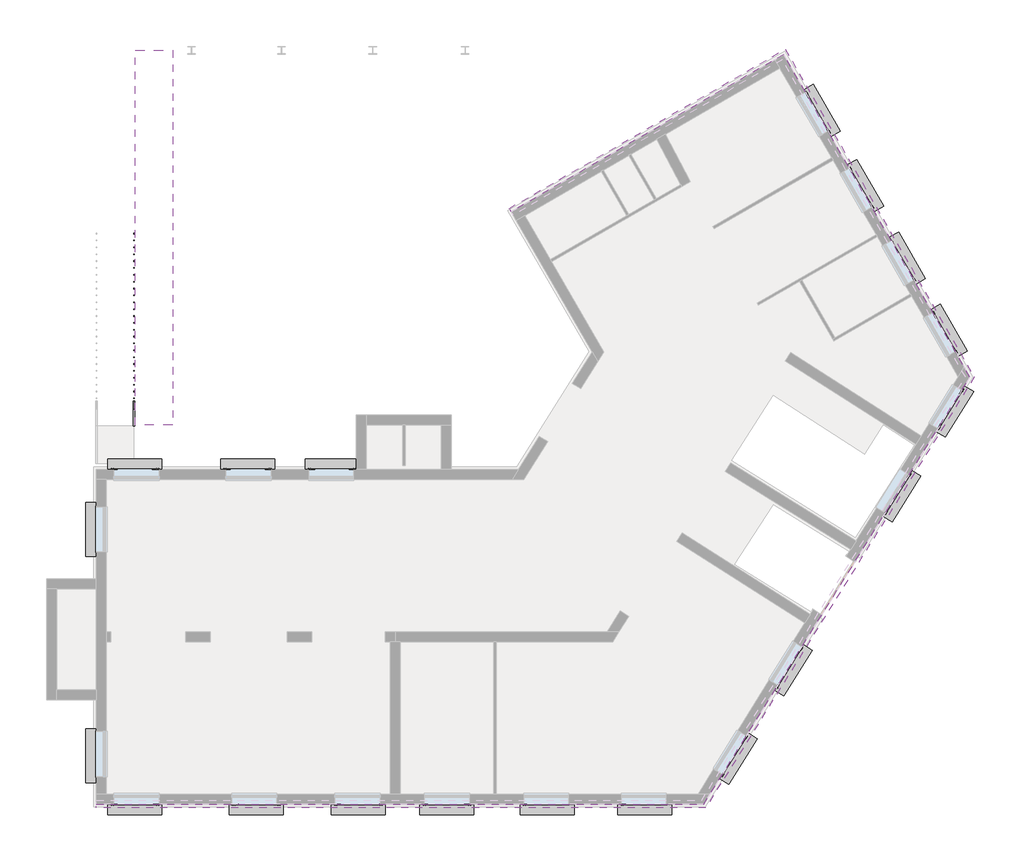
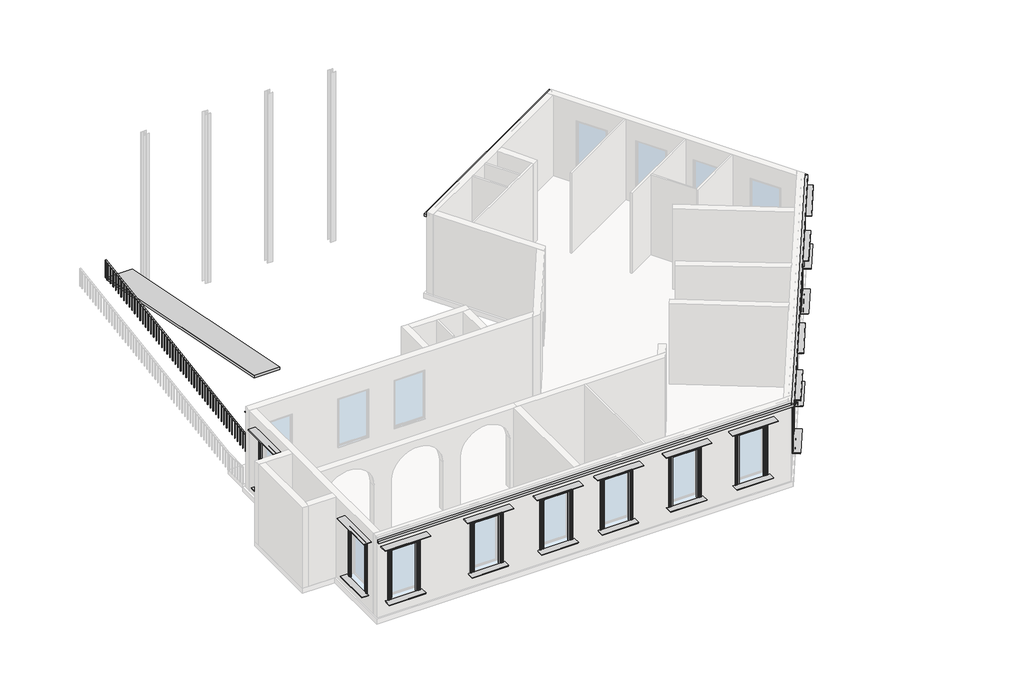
# One storey, part 3 of 3: 20 proxies, 1 railing, 1 ramp.
"""IFC4 building model written with IfcOpenShell, lengths in millimetres."""

from ifc_helpers import new_model, si_unit, frame, origin, place, context, project, spatial, polyline, outline, extrude, transform, mapped, element, save
from components import type_1_216547c5, standard_3_bc49fa27

model = new_model("IFC4")

# Units and contexts
model_context = context("Model", 3, world=origin())
ifc_project = project(units=[si_unit("LENGTHUNIT", "METRE", prefix="MILLI")], contexts=[model_context])

# Site, building, storey
site = spatial("IfcSite", under=ifc_project)
building = spatial("IfcBuilding", under=site)
storey = spatial("IfcBuildingStorey", under=building, Name="PLINT LEVEL +1.00", Elevation=1000.0)

# Proxies
placement = place(None, origin())
element("IfcBuildingElementProxy", 1, Name="Cornice", ObjectType="Cornice", at=placement, inside=storey, context=model_context, shape_type="SweptSolid", body=[
    extrude(outline(polyline([(-13331.6874983, -4062.3711746), (-13331.6874983, -3909.9711746), (10979.352603, -3909.9711746), (11063.9651601, -4062.3711746), (-13331.6874983, -4062.3711746)])), frame((0.0, 0.0, 5700.0), z_axis=(0.0, 0.0, 1.0), x_axis=(1.0, 0.0, 0.0)), (0.0, 0.0, 1.0), 152.4),
    extrude(outline(polyline([(21640.5525636, 13203.3879896), (21818.2497468, 13200.4074399), (11063.9651601, -4062.3711746), (10979.352603, -3909.9711746), (21640.5525636, 13203.3879896)])), frame((0.0, 0.0, 5700.0), z_axis=(0.0, 0.0, 1.0), x_axis=(1.0, 0.0, 0.0)), (0.0, 0.0, 1.0), 152.4),
    extrude(outline(polyline([(14180.5592412, 26124.4754481), (14236.3415127, 26332.6577196), (21818.2497468, 13200.4074399), (21640.5525636, 13203.3879896), (14180.5592412, 26124.4754481)])), frame((0.0, 0.0, 5700.0), z_axis=(0.0, 0.0, 1.0), x_axis=(1.0, 0.0, 0.0)), (0.0, 0.0, 1.0), 152.4),
    extrude(outline(polyline([(3268.6391535, 19824.4754481), (3192.4391535, 19956.4577196), (14236.3415127, 26332.6577196), (14180.5592412, 26124.4754481), (3268.6391535, 19824.4754481)])), frame((0.0, 0.0, 5700.0), z_axis=(0.0, 0.0, 1.0), x_axis=(1.0, 0.0, 0.0)), (0.0, 0.0, 1.0), 152.4),
])
type_1_shape = type_1_216547c5(model_context)
element("IfcBuildingElementProxy", 2, Name="Family1.rfa122231 : Type 1", ObjectType="Family1.rfa122231 : Type 1", at=placement, inside=storey, context=model_context, shape_type="MappedRepresentation", body=[
    mapped(type_1_shape, transform((-11667.3092766, -3709.9711746, 1000.0), x_axis=(-1.0, 0.0, 0.0), y_axis=(0.0, -1.0, 0.0), z_axis=(0.0, 0.0, 1.0))),
])
element("IfcBuildingElementProxy", 3, Name="Family1.rfa122231 : Type 1", ObjectType="Family1.rfa122231 : Type 1", at=placement, inside=storey, context=model_context, shape_type="MappedRepresentation", body=[
    mapped(type_1_shape, transform((-6801.9484639, -3709.9711746, 1000.0), x_axis=(-1.0, 0.0, 0.0), y_axis=(0.0, -1.0, 0.0), z_axis=(0.0, 0.0, 1.0))),
])
element("IfcBuildingElementProxy", 4, Name="Family1.rfa122231 : Type 1", ObjectType="Family1.rfa122231 : Type 1", at=placement, inside=storey, context=model_context, shape_type="MappedRepresentation", body=[
    mapped(type_1_shape, transform((-2720.6984639, -3709.9711746, 1000.0), x_axis=(-1.0, 0.0, 0.0), y_axis=(0.0, -1.0, 0.0), z_axis=(0.0, 0.0, 1.0))),
])
element("IfcBuildingElementProxy", 5, Name="Family1.rfa122231 : Type 1", ObjectType="Family1.rfa122231 : Type 1", at=placement, inside=storey, context=model_context, shape_type="MappedRepresentation", body=[
    mapped(type_1_shape, transform((823.990647, -3709.9711746, 1000.0), x_axis=(-1.0, 0.0, 0.0), y_axis=(0.0, -1.0, 0.0), z_axis=(0.0, 0.0, 1.0))),
])
element("IfcBuildingElementProxy", 6, Name="Family1.rfa122231 : Type 1", ObjectType="Family1.rfa122231 : Type 1", at=placement, inside=storey, context=model_context, shape_type="MappedRepresentation", body=[
    mapped(type_1_shape, transform((4834.9297578, -3709.9711746, 1000.0), x_axis=(-1.0, 0.0, 0.0), y_axis=(0.0, -1.0, 0.0), z_axis=(0.0, 0.0, 1.0))),
])
element("IfcBuildingElementProxy", 7, Name="Family1.rfa122231 : Type 1", ObjectType="Family1.rfa122231 : Type 1", at=placement, inside=storey, context=model_context, shape_type="MappedRepresentation", body=[
    mapped(type_1_shape, transform((8744.9297578, -3709.9711746, 1000.0), x_axis=(-1.0, 0.0, 0.0), y_axis=(0.0, -1.0, 0.0), z_axis=(0.0, 0.0, 1.0))),
])
element("IfcBuildingElementProxy", 8, Name="Family1.rfa122231 : Type 1", ObjectType="Family1.rfa122231 : Type 1", at=placement, inside=storey, context=model_context, shape_type="MappedRepresentation", body=[
    mapped(type_1_shape, transform((12080.9568007, -1763.4344335, 1000.0), x_axis=(-0.5287625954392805, -0.8487697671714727, 0.0), y_axis=(0.8487697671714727, -0.5287625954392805, 0.0), z_axis=(0.0, 0.0, 1.0))),
])
element("IfcBuildingElementProxy", 9, Name="Family1.rfa122231 : Type 1", ObjectType="Family1.rfa122231 : Type 1", at=placement, inside=storey, context=model_context, shape_type="MappedRepresentation", body=[
    mapped(type_1_shape, transform((14290.8556765, 1783.8954467, 1000.0), x_axis=(-0.5287625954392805, -0.8487697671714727, 0.0), y_axis=(0.8487697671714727, -0.5287625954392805, 0.0), z_axis=(0.0, 0.0, 1.0))),
])
element("IfcBuildingElementProxy", 10, Name="Family1.rfa122231 : Type 1", ObjectType="Family1.rfa122231 : Type 1", at=placement, inside=storey, context=model_context, shape_type="MappedRepresentation", body=[
    mapped(type_1_shape, transform((20747.0469669, 12147.3743039, 1000.0), x_axis=(-0.5287625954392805, -0.8487697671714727, 0.0), y_axis=(0.8487697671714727, -0.5287625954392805, 0.0), z_axis=(0.0, 0.0, 1.0))),
])
element("IfcBuildingElementProxy", 11, Name="Family1.rfa122231 : Type 1", ObjectType="Family1.rfa122231 : Type 1", at=placement, inside=storey, context=model_context, shape_type="MappedRepresentation", body=[
    mapped(type_1_shape, transform((20386.1041604, 14976.1563593, 1000.0), x_axis=(0.49999999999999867, -0.8660254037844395, 0.0), y_axis=(0.8660254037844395, 0.49999999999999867, 0.0), z_axis=(0.0, 0.0, 1.0))),
])
element("IfcBuildingElementProxy", 12, Name="Family1.rfa122231 : Type 1", ObjectType="Family1.rfa122231 : Type 1", at=placement, inside=storey, context=model_context, shape_type="MappedRepresentation", body=[
    mapped(type_1_shape, transform((18712.3541604, 17875.1763985, 1000.0), x_axis=(0.49999999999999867, -0.8660254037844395, 0.0), y_axis=(0.8660254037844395, 0.49999999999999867, 0.0), z_axis=(0.0, 0.0, 1.0))),
])
element("IfcBuildingElementProxy", 13, Name="Family1.rfa122231 : Type 1", ObjectType="Family1.rfa122231 : Type 1", at=placement, inside=storey, context=model_context, shape_type="MappedRepresentation", body=[
    mapped(type_1_shape, transform((17038.6041604, 20774.1964376, 1000.0), x_axis=(0.49999999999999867, -0.8660254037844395, 0.0), y_axis=(0.8660254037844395, 0.49999999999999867, 0.0), z_axis=(0.0, 0.0, 1.0))),
])
element("IfcBuildingElementProxy", 14, Name="Family1.rfa122231 : Type 1", ObjectType="Family1.rfa122231 : Type 1", at=placement, inside=storey, context=model_context, shape_type="MappedRepresentation", body=[
    mapped(type_1_shape, transform((15301.4150495, 23783.09624, 1000.0), x_axis=(0.49999999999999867, -0.8660254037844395, 0.0), y_axis=(0.8660254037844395, 0.49999999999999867, 0.0), z_axis=(0.0, 0.0, 1.0))),
])
element("IfcBuildingElementProxy", 15, Name="Family1.rfa122231 : Type 1", ObjectType="Family1.rfa122231 : Type 1", at=placement, inside=storey, context=model_context, shape_type="MappedRepresentation", body=[
    mapped(type_1_shape, transform((-13131.6874983, -2094.9711746, 1000.0), x_axis=(0.0, 1.0, 0.0), y_axis=(-1.0, 0.0, 0.0), z_axis=(0.0, 0.0, 1.0))),
])
element("IfcBuildingElementProxy", 16, Name="Family1.rfa122231 : Type 1", ObjectType="Family1.rfa122231 : Type 1", at=placement, inside=storey, context=model_context, shape_type="MappedRepresentation", body=[
    mapped(type_1_shape, transform((-13131.6874983, 6973.1027037, 1000.0), x_axis=(0.0, 1.0, 0.0), y_axis=(-1.0, 0.0, 0.0), z_axis=(0.0, 0.0, 1.0))),
])
element("IfcBuildingElementProxy", 17, Name="Family1.rfa122231 : Type 1", ObjectType="Family1.rfa122231 : Type 1", at=placement, inside=storey, context=model_context, shape_type="MappedRepresentation", body=[
    mapped(type_1_shape, transform((-11916.6874983, 9290.0288254, 1000.0), x_axis=(1.0, 0.0, 0.0), y_axis=(0.0, 1.0, 0.0), z_axis=(0.0, 0.0, 1.0))),
])
element("IfcBuildingElementProxy", 18, Name="Family1.rfa122231 : Type 1", ObjectType="Family1.rfa122231 : Type 1", at=placement, inside=storey, context=model_context, shape_type="MappedRepresentation", body=[
    mapped(type_1_shape, transform((-7406.3266857, 9290.0288254, 1000.0), x_axis=(1.0, 0.0, 0.0), y_axis=(0.0, 1.0, 0.0), z_axis=(0.0, 0.0, 1.0))),
])
element("IfcBuildingElementProxy", 19, Name="Family1.rfa122231 : Type 1", ObjectType="Family1.rfa122231 : Type 1", at=placement, inside=storey, context=model_context, shape_type="MappedRepresentation", body=[
    mapped(type_1_shape, transform((-4026.9484639, 9290.0288254, 1000.0), x_axis=(1.0, 0.0, 0.0), y_axis=(0.0, 1.0, 0.0), z_axis=(0.0, 0.0, 1.0))),
])
element("IfcBuildingElementProxy", 20, Name="Family1.rfa122231 : Type 1", ObjectType="Family1.rfa122231 : Type 1", at=placement, inside=storey, context=model_context, shape_type="MappedRepresentation", body=[
    mapped(type_1_shape, transform((18631.9965851, 8752.2952352, 1000.0), x_axis=(-0.5287625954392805, -0.8487697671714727, 0.0), y_axis=(0.8487697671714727, -0.5287625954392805, 0.0), z_axis=(0.0, 0.0, 1.0))),
])

# Railing
element("IfcRailing", 21, ObjectType="1100mm", at=placement, inside=storey, context=model_context, shape_type="SweptSolid", body=[
    extrude(outline(polyline([(11247.200745, 2049.4202574), (11247.200745, 2100.0), (26307.200745, 4400.0), (26307.200745, 4349.4202574), (11247.200745, 2049.4202574)])), frame((-11856.6874983, 0.0, 0.0), z_axis=(1.0, 0.0, 0.0), x_axis=(0.0, 1.0, 0.0)), (0.0, 0.0, 1.0), 50.0),
    extrude(outline(polyline([(26084.700745, 4315.4395137), (26109.700745, 4319.2575748), (26109.700745, 3267.9282869), (26084.700745, 3267.9282869), (26084.700745, 4315.4395137)])), frame((-11844.1874983, 0.0, 0.0), z_axis=(1.0, 0.0, 0.0), x_axis=(0.0, 1.0, 0.0)), (0.0, 0.0, 1.0), 25.0),
    extrude(outline(polyline([(25809.700745, 4273.4408417), (25834.700745, 4277.2589028), (25834.700745, 3225.9296149), (25809.700745, 3225.9296149), (25809.700745, 4273.4408417)])), frame((-11844.1874983, 0.0, 0.0), z_axis=(1.0, 0.0, 0.0), x_axis=(0.0, 1.0, 0.0)), (0.0, 0.0, 1.0), 25.0),
    extrude(outline(polyline([(25534.700745, 4231.4421697), (25559.700745, 4235.2602308), (25559.700745, 3183.9309429), (25534.700745, 3183.9309429), (25534.700745, 4231.4421697)])), frame((-11844.1874983, 0.0, 0.0), z_axis=(1.0, 0.0, 0.0), x_axis=(0.0, 1.0, 0.0)), (0.0, 0.0, 1.0), 25.0),
    extrude(outline(polyline([(25259.700745, 4189.4434978), (25284.700745, 4193.2615589), (25284.700745, 3141.9322709), (25259.700745, 3141.9322709), (25259.700745, 4189.4434978)])), frame((-11844.1874983, 0.0, 0.0), z_axis=(1.0, 0.0, 0.0), x_axis=(0.0, 1.0, 0.0)), (0.0, 0.0, 1.0), 25.0),
    extrude(outline(polyline([(24984.700745, 4147.4448258), (25009.700745, 4151.2628869), (25009.700745, 3099.9335989), (24984.700745, 3099.9335989), (24984.700745, 4147.4448258)])), frame((-11844.1874983, 0.0, 0.0), z_axis=(1.0, 0.0, 0.0), x_axis=(0.0, 1.0, 0.0)), (0.0, 0.0, 1.0), 25.0),
    extrude(outline(polyline([(24709.700745, 4105.4461538), (24734.700745, 4109.2642149), (24734.700745, 3057.934927), (24709.700745, 3057.934927), (24709.700745, 4105.4461538)])), frame((-11844.1874983, 0.0, 0.0), z_axis=(1.0, 0.0, 0.0), x_axis=(0.0, 1.0, 0.0)), (0.0, 0.0, 1.0), 25.0),
    extrude(outline(polyline([(24434.700745, 4063.4474818), (24459.700745, 4067.2655429), (24459.700745, 3015.936255), (24434.700745, 3015.936255), (24434.700745, 4063.4474818)])), frame((-11844.1874983, 0.0, 0.0), z_axis=(1.0, 0.0, 0.0), x_axis=(0.0, 1.0, 0.0)), (0.0, 0.0, 1.0), 25.0),
    extrude(outline(polyline([(24159.700745, 4021.4488099), (24184.700745, 4025.2668709), (24184.700745, 2973.937583), (24159.700745, 2973.937583), (24159.700745, 4021.4488099)])), frame((-11844.1874983, 0.0, 0.0), z_axis=(1.0, 0.0, 0.0), x_axis=(0.0, 1.0, 0.0)), (0.0, 0.0, 1.0), 25.0),
    extrude(outline(polyline([(23884.700745, 3979.4501379), (23909.700745, 3983.268199), (23909.700745, 2931.938911), (23884.700745, 2931.938911), (23884.700745, 3979.4501379)])), frame((-11844.1874983, 0.0, 0.0), z_axis=(1.0, 0.0, 0.0), x_axis=(0.0, 1.0, 0.0)), (0.0, 0.0, 1.0), 25.0),
    extrude(outline(polyline([(23609.700745, 3937.4514659), (23634.700745, 3941.269527), (23634.700745, 2889.940239), (23609.700745, 2889.940239), (23609.700745, 3937.4514659)])), frame((-11844.1874983, 0.0, 0.0), z_axis=(1.0, 0.0, 0.0), x_axis=(0.0, 1.0, 0.0)), (0.0, 0.0, 1.0), 25.0),
    extrude(outline(polyline([(23334.700745, 3895.4527939), (23359.700745, 3899.270855), (23359.700745, 2847.9415671), (23334.700745, 2847.9415671), (23334.700745, 3895.4527939)])), frame((-11844.1874983, 0.0, 0.0), z_axis=(1.0, 0.0, 0.0), x_axis=(0.0, 1.0, 0.0)), (0.0, 0.0, 1.0), 25.0),
    extrude(outline(polyline([(23059.700745, 3853.4541219), (23084.700745, 3857.272183), (23084.700745, 2805.9428951), (23059.700745, 2805.9428951), (23059.700745, 3853.4541219)])), frame((-11844.1874983, 0.0, 0.0), z_axis=(1.0, 0.0, 0.0), x_axis=(0.0, 1.0, 0.0)), (0.0, 0.0, 1.0), 25.0),
    extrude(outline(polyline([(22784.700745, 3811.45545), (22809.700745, 3815.273511), (22809.700745, 2763.9442231), (22784.700745, 2763.9442231), (22784.700745, 3811.45545)])), frame((-11844.1874983, 0.0, 0.0), z_axis=(1.0, 0.0, 0.0), x_axis=(0.0, 1.0, 0.0)), (0.0, 0.0, 1.0), 25.0),
    extrude(outline(polyline([(22509.700745, 3769.456778), (22534.700745, 3773.2748391), (22534.700745, 2721.9455511), (22509.700745, 2721.9455511), (22509.700745, 3769.456778)])), frame((-11844.1874983, 0.0, 0.0), z_axis=(1.0, 0.0, 0.0), x_axis=(0.0, 1.0, 0.0)), (0.0, 0.0, 1.0), 25.0),
    extrude(outline(polyline([(22234.700745, 3727.458106), (22259.700745, 3731.2761671), (22259.700745, 2679.9468792), (22234.700745, 2679.9468792), (22234.700745, 3727.458106)])), frame((-11844.1874983, 0.0, 0.0), z_axis=(1.0, 0.0, 0.0), x_axis=(0.0, 1.0, 0.0)), (0.0, 0.0, 1.0), 25.0),
    extrude(outline(polyline([(21959.700745, 3685.459434), (21984.700745, 3689.2774951), (21984.700745, 2637.9482072), (21959.700745, 2637.9482072), (21959.700745, 3685.459434)])), frame((-11844.1874983, 0.0, 0.0), z_axis=(1.0, 0.0, 0.0), x_axis=(0.0, 1.0, 0.0)), (0.0, 0.0, 1.0), 25.0),
    extrude(outline(polyline([(21684.700745, 3643.460762), (21709.700745, 3647.2788231), (21709.700745, 2595.9495352), (21684.700745, 2595.9495352), (21684.700745, 3643.460762)])), frame((-11844.1874983, 0.0, 0.0), z_axis=(1.0, 0.0, 0.0), x_axis=(0.0, 1.0, 0.0)), (0.0, 0.0, 1.0), 25.0),
    extrude(outline(polyline([(21409.700745, 3601.4620901), (21434.700745, 3605.2801512), (21434.700745, 2553.9508632), (21409.700745, 2553.9508632), (21409.700745, 3601.4620901)])), frame((-11844.1874983, 0.0, 0.0), z_axis=(1.0, 0.0, 0.0), x_axis=(0.0, 1.0, 0.0)), (0.0, 0.0, 1.0), 25.0),
    extrude(outline(polyline([(21134.700745, 3559.4634181), (21159.700745, 3563.2814792), (21159.700745, 2511.9521912), (21134.700745, 2511.9521912), (21134.700745, 3559.4634181)])), frame((-11844.1874983, 0.0, 0.0), z_axis=(1.0, 0.0, 0.0), x_axis=(0.0, 1.0, 0.0)), (0.0, 0.0, 1.0), 25.0),
    extrude(outline(polyline([(20859.700745, 3517.4647461), (20884.700745, 3521.2828072), (20884.700745, 2469.9535193), (20859.700745, 2469.9535193), (20859.700745, 3517.4647461)])), frame((-11844.1874983, 0.0, 0.0), z_axis=(1.0, 0.0, 0.0), x_axis=(0.0, 1.0, 0.0)), (0.0, 0.0, 1.0), 25.0),
    extrude(outline(polyline([(20584.700745, 3475.4660741), (20609.700745, 3479.2841352), (20609.700745, 2427.9548473), (20584.700745, 2427.9548473), (20584.700745, 3475.4660741)])), frame((-11844.1874983, 0.0, 0.0), z_axis=(1.0, 0.0, 0.0), x_axis=(0.0, 1.0, 0.0)), (0.0, 0.0, 1.0), 25.0),
    extrude(outline(polyline([(20309.700745, 3433.4674022), (20334.700745, 3437.2854632), (20334.700745, 2385.9561753), (20309.700745, 2385.9561753), (20309.700745, 3433.4674022)])), frame((-11844.1874983, 0.0, 0.0), z_axis=(1.0, 0.0, 0.0), x_axis=(0.0, 1.0, 0.0)), (0.0, 0.0, 1.0), 25.0),
    extrude(outline(polyline([(20034.700745, 3391.4687302), (20059.700745, 3395.2867913), (20059.700745, 2343.9575033), (20034.700745, 2343.9575033), (20034.700745, 3391.4687302)])), frame((-11844.1874983, 0.0, 0.0), z_axis=(1.0, 0.0, 0.0), x_axis=(0.0, 1.0, 0.0)), (0.0, 0.0, 1.0), 25.0),
    extrude(outline(polyline([(19759.700745, 3349.4700582), (19784.700745, 3353.2881193), (19784.700745, 2301.9588313), (19759.700745, 2301.9588313), (19759.700745, 3349.4700582)])), frame((-11844.1874983, 0.0, 0.0), z_axis=(1.0, 0.0, 0.0), x_axis=(0.0, 1.0, 0.0)), (0.0, 0.0, 1.0), 25.0),
    extrude(outline(polyline([(19484.700745, 3307.4713862), (19509.700745, 3311.2894473), (19509.700745, 2259.9601594), (19484.700745, 2259.9601594), (19484.700745, 3307.4713862)])), frame((-11844.1874983, 0.0, 0.0), z_axis=(1.0, 0.0, 0.0), x_axis=(0.0, 1.0, 0.0)), (0.0, 0.0, 1.0), 25.0),
    extrude(outline(polyline([(19209.700745, 3265.4727142), (19234.700745, 3269.2907753), (19234.700745, 2217.9614874), (19209.700745, 2217.9614874), (19209.700745, 3265.4727142)])), frame((-11844.1874983, 0.0, 0.0), z_axis=(1.0, 0.0, 0.0), x_axis=(0.0, 1.0, 0.0)), (0.0, 0.0, 1.0), 25.0),
    extrude(outline(polyline([(18934.700745, 3223.4740423), (18959.700745, 3227.2921033), (18959.700745, 2175.9628154), (18934.700745, 2175.9628154), (18934.700745, 3223.4740423)])), frame((-11844.1874983, 0.0, 0.0), z_axis=(1.0, 0.0, 0.0), x_axis=(0.0, 1.0, 0.0)), (0.0, 0.0, 1.0), 25.0),
    extrude(outline(polyline([(18659.700745, 3181.4753703), (18684.700745, 3185.2934314), (18684.700745, 2133.9641434), (18659.700745, 2133.9641434), (18659.700745, 3181.4753703)])), frame((-11844.1874983, 0.0, 0.0), z_axis=(1.0, 0.0, 0.0), x_axis=(0.0, 1.0, 0.0)), (0.0, 0.0, 1.0), 25.0),
    extrude(outline(polyline([(18384.700745, 3139.4766983), (18409.700745, 3143.2947594), (18409.700745, 2091.9654714), (18384.700745, 2091.9654714), (18384.700745, 3139.4766983)])), frame((-11844.1874983, 0.0, 0.0), z_axis=(1.0, 0.0, 0.0), x_axis=(0.0, 1.0, 0.0)), (0.0, 0.0, 1.0), 25.0),
    extrude(outline(polyline([(18109.700745, 3097.4780263), (18134.700745, 3101.2960874), (18134.700745, 2049.9667995), (18109.700745, 2049.9667995), (18109.700745, 3097.4780263)])), frame((-11844.1874983, 0.0, 0.0), z_axis=(1.0, 0.0, 0.0), x_axis=(0.0, 1.0, 0.0)), (0.0, 0.0, 1.0), 25.0),
    extrude(outline(polyline([(17834.700745, 3055.4793543), (17859.700745, 3059.2974154), (17859.700745, 2007.9681275), (17834.700745, 2007.9681275), (17834.700745, 3055.4793543)])), frame((-11844.1874983, 0.0, 0.0), z_axis=(1.0, 0.0, 0.0), x_axis=(0.0, 1.0, 0.0)), (0.0, 0.0, 1.0), 25.0),
    extrude(outline(polyline([(17559.700745, 3013.4806824), (17584.700745, 3017.2987435), (17584.700745, 1965.9694555), (17559.700745, 1965.9694555), (17559.700745, 3013.4806824)])), frame((-11844.1874983, 0.0, 0.0), z_axis=(1.0, 0.0, 0.0), x_axis=(0.0, 1.0, 0.0)), (0.0, 0.0, 1.0), 25.0),
    extrude(outline(polyline([(17284.700745, 2971.4820104), (17309.700745, 2975.3000715), (17309.700745, 1923.9707835), (17284.700745, 1923.9707835), (17284.700745, 2971.4820104)])), frame((-11844.1874983, 0.0, 0.0), z_axis=(1.0, 0.0, 0.0), x_axis=(0.0, 1.0, 0.0)), (0.0, 0.0, 1.0), 25.0),
    extrude(outline(polyline([(17009.700745, 2929.4833384), (17034.700745, 2933.3013995), (17034.700745, 1881.9721116), (17009.700745, 1881.9721116), (17009.700745, 2929.4833384)])), frame((-11844.1874983, 0.0, 0.0), z_axis=(1.0, 0.0, 0.0), x_axis=(0.0, 1.0, 0.0)), (0.0, 0.0, 1.0), 25.0),
    extrude(outline(polyline([(16734.700745, 2887.4846664), (16759.700745, 2891.3027275), (16759.700745, 1839.9734396), (16734.700745, 1839.9734396), (16734.700745, 2887.4846664)])), frame((-11844.1874983, 0.0, 0.0), z_axis=(1.0, 0.0, 0.0), x_axis=(0.0, 1.0, 0.0)), (0.0, 0.0, 1.0), 25.0),
    extrude(outline(polyline([(16459.700745, 2845.4859944), (16484.700745, 2849.3040555), (16484.700745, 1797.9747676), (16459.700745, 1797.9747676), (16459.700745, 2845.4859944)])), frame((-11844.1874983, 0.0, 0.0), z_axis=(1.0, 0.0, 0.0), x_axis=(0.0, 1.0, 0.0)), (0.0, 0.0, 1.0), 25.0),
    extrude(outline(polyline([(16184.700745, 2803.4873225), (16209.700745, 2807.3053836), (16209.700745, 1755.9760956), (16184.700745, 1755.9760956), (16184.700745, 2803.4873225)])), frame((-11844.1874983, 0.0, 0.0), z_axis=(1.0, 0.0, 0.0), x_axis=(0.0, 1.0, 0.0)), (0.0, 0.0, 1.0), 25.0),
    extrude(outline(polyline([(15909.700745, 2761.4886505), (15934.700745, 2765.3067116), (15934.700745, 1713.9774236), (15909.700745, 1713.9774236), (15909.700745, 2761.4886505)])), frame((-11844.1874983, 0.0, 0.0), z_axis=(1.0, 0.0, 0.0), x_axis=(0.0, 1.0, 0.0)), (0.0, 0.0, 1.0), 25.0),
    extrude(outline(polyline([(15634.700745, 2719.4899785), (15659.700745, 2723.3080396), (15659.700745, 1671.9787517), (15634.700745, 1671.9787517), (15634.700745, 2719.4899785)])), frame((-11844.1874983, 0.0, 0.0), z_axis=(1.0, 0.0, 0.0), x_axis=(0.0, 1.0, 0.0)), (0.0, 0.0, 1.0), 25.0),
    extrude(outline(polyline([(15359.700745, 2677.4913065), (15384.700745, 2681.3093676), (15384.700745, 1629.9800797), (15359.700745, 1629.9800797), (15359.700745, 2677.4913065)])), frame((-11844.1874983, 0.0, 0.0), z_axis=(1.0, 0.0, 0.0), x_axis=(0.0, 1.0, 0.0)), (0.0, 0.0, 1.0), 25.0),
    extrude(outline(polyline([(15084.700745, 2635.4926346), (15109.700745, 2639.3106956), (15109.700745, 1587.9814077), (15084.700745, 1587.9814077), (15084.700745, 2635.4926346)])), frame((-11844.1874983, 0.0, 0.0), z_axis=(1.0, 0.0, 0.0), x_axis=(0.0, 1.0, 0.0)), (0.0, 0.0, 1.0), 25.0),
    extrude(outline(polyline([(14809.700745, 2593.4939626), (14834.700745, 2597.3120237), (14834.700745, 1545.9827357), (14809.700745, 1545.9827357), (14809.700745, 2593.4939626)])), frame((-11844.1874983, 0.0, 0.0), z_axis=(1.0, 0.0, 0.0), x_axis=(0.0, 1.0, 0.0)), (0.0, 0.0, 1.0), 25.0),
    extrude(outline(polyline([(14534.700745, 2551.4952906), (14559.700745, 2555.3133517), (14559.700745, 1503.9840637), (14534.700745, 1503.9840637), (14534.700745, 2551.4952906)])), frame((-11844.1874983, 0.0, 0.0), z_axis=(1.0, 0.0, 0.0), x_axis=(0.0, 1.0, 0.0)), (0.0, 0.0, 1.0), 25.0),
    extrude(outline(polyline([(14259.700745, 2509.4966186), (14284.700745, 2513.3146797), (14284.700745, 1461.9853918), (14259.700745, 1461.9853918), (14259.700745, 2509.4966186)])), frame((-11844.1874983, 0.0, 0.0), z_axis=(1.0, 0.0, 0.0), x_axis=(0.0, 1.0, 0.0)), (0.0, 0.0, 1.0), 25.0),
    extrude(outline(polyline([(13984.700745, 2467.4979466), (14009.700745, 2471.3160077), (14009.700745, 1419.9867198), (13984.700745, 1419.9867198), (13984.700745, 2467.4979466)])), frame((-11844.1874983, 0.0, 0.0), z_axis=(1.0, 0.0, 0.0), x_axis=(0.0, 1.0, 0.0)), (0.0, 0.0, 1.0), 25.0),
    extrude(outline(polyline([(13709.700745, 2425.4992747), (13734.700745, 2429.3173357), (13734.700745, 1377.9880478), (13709.700745, 1377.9880478), (13709.700745, 2425.4992747)])), frame((-11844.1874983, 0.0, 0.0), z_axis=(1.0, 0.0, 0.0), x_axis=(0.0, 1.0, 0.0)), (0.0, 0.0, 1.0), 25.0),
    extrude(outline(polyline([(13434.700745, 2383.5006027), (13459.700745, 2387.3186638), (13459.700745, 1335.9893758), (13434.700745, 1335.9893758), (13434.700745, 2383.5006027)])), frame((-11844.1874983, 0.0, 0.0), z_axis=(1.0, 0.0, 0.0), x_axis=(0.0, 1.0, 0.0)), (0.0, 0.0, 1.0), 25.0),
    extrude(outline(polyline([(13159.700745, 2341.5019307), (13184.700745, 2345.3199918), (13184.700745, 1293.9907039), (13159.700745, 1293.9907039), (13159.700745, 2341.5019307)])), frame((-11844.1874983, 0.0, 0.0), z_axis=(1.0, 0.0, 0.0), x_axis=(0.0, 1.0, 0.0)), (0.0, 0.0, 1.0), 25.0),
    extrude(outline(polyline([(12884.700745, 2299.5032587), (12909.700745, 2303.3213198), (12909.700745, 1251.9920319), (12884.700745, 1251.9920319), (12884.700745, 2299.5032587)])), frame((-11844.1874983, 0.0, 0.0), z_axis=(1.0, 0.0, 0.0), x_axis=(0.0, 1.0, 0.0)), (0.0, 0.0, 1.0), 25.0),
    extrude(outline(polyline([(12609.700745, 2257.5045867), (12634.700745, 2261.3226478), (12634.700745, 1209.9933599), (12609.700745, 1209.9933599), (12609.700745, 2257.5045867)])), frame((-11844.1874983, 0.0, 0.0), z_axis=(1.0, 0.0, 0.0), x_axis=(0.0, 1.0, 0.0)), (0.0, 0.0, 1.0), 25.0),
    extrude(outline(polyline([(12334.700745, 2215.5059148), (12359.700745, 2219.3239759), (12359.700745, 1167.9946879), (12334.700745, 1167.9946879), (12334.700745, 2215.5059148)])), frame((-11844.1874983, 0.0, 0.0), z_axis=(1.0, 0.0, 0.0), x_axis=(0.0, 1.0, 0.0)), (0.0, 0.0, 1.0), 25.0),
    extrude(outline(polyline([(12059.700745, 2173.5072428), (12084.700745, 2177.3253039), (12084.700745, 1125.9960159), (12059.700745, 1125.9960159), (12059.700745, 2173.5072428)])), frame((-11844.1874983, 0.0, 0.0), z_axis=(1.0, 0.0, 0.0), x_axis=(0.0, 1.0, 0.0)), (0.0, 0.0, 1.0), 25.0),
    extrude(outline(polyline([(11784.700745, 2131.5085708), (11809.700745, 2135.3266319), (11809.700745, 1083.997344), (11784.700745, 1083.997344), (11784.700745, 2131.5085708)])), frame((-11844.1874983, 0.0, 0.0), z_axis=(1.0, 0.0, 0.0), x_axis=(0.0, 1.0, 0.0)), (0.0, 0.0, 1.0), 25.0),
    extrude(outline(polyline([(11509.700745, 2089.5098988), (11534.700745, 2093.3279599), (11534.700745, 1041.998672), (11509.700745, 1041.998672), (11509.700745, 2089.5098988)])), frame((-11844.1874983, 0.0, 0.0), z_axis=(1.0, 0.0, 0.0), x_axis=(0.0, 1.0, 0.0)), (0.0, 0.0, 1.0), 25.0),
    extrude(outline(polyline([(26282.200745, 4345.6021963), (26307.200745, 4349.4202574), (26307.200745, 3298.0909695), (26282.200745, 3298.0909695), (26282.200745, 4345.6021963)])), frame((-11844.1874983, 0.0, 0.0), z_axis=(1.0, 0.0, 0.0), x_axis=(0.0, 1.0, 0.0)), (0.0, 0.0, 1.0), 25.0),
    extrude(outline(polyline([(11247.200745, 2049.4202574), (11272.200745, 2053.2383185), (11272.200745, 1001.9090305), (11247.200745, 1001.9090305), (11247.200745, 2049.4202574)])), frame((-11844.1874983, 0.0, 0.0), z_axis=(1.0, 0.0, 0.0), x_axis=(0.0, 1.0, 0.0)), (0.0, 0.0, 1.0), 25.0),
])

# Ramp
standard_3_shape = standard_3_bc49fa27(model_context)
element("IfcRamp", 22, ObjectType="Standard 3", at=placement, inside=storey, context=model_context, shape_type="MappedRepresentation", body=[
    mapped(standard_3_shape, transform((0.0, 0.0, 0.0), x_axis=(1.0, 0.0, 0.0), y_axis=(0.0, 1.0, 0.0), z_axis=(0.0, 0.0, 1.0))),
])

save(model, "model.ifc")
